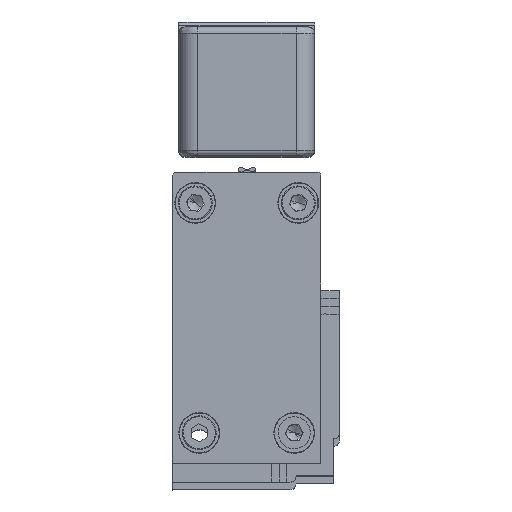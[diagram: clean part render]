
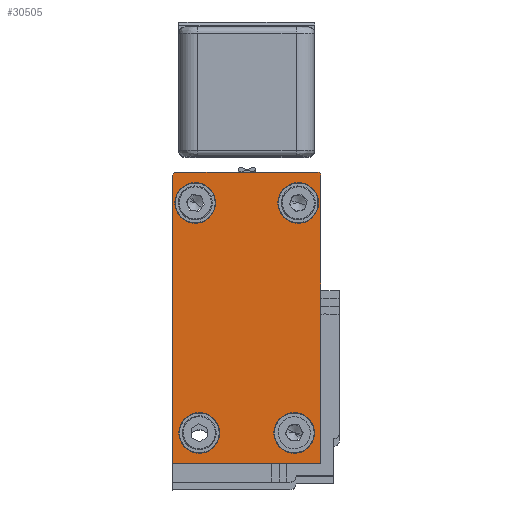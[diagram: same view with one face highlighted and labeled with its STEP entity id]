
A CAD part, top view. The second image highlights one B-rep face of the part: STEP entity #30505.
In plain terms, the highlighted planar face has unit normal (0, 0, 1).
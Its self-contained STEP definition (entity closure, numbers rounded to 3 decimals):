
#558 = AXIS2_PLACEMENT_3D ( 'NONE', #4764, #22185, #7271 ) ;
#750 = CARTESIAN_POINT ( 'NONE',  ( -10.412, -15.887, 3185. ) ) ;
#757 = VERTEX_POINT ( 'NONE', #20010 ) ;
#947 = EDGE_CURVE ( 'NONE', #757, #5294, #22103, .T. ) ;
#955 = DIRECTION ( 'NONE',  ( -1., 0., 0. ) ) ;
#1496 = CARTESIAN_POINT ( 'NONE',  ( -17.514, 26.371, 3185. ) ) ;
#1569 = FACE_BOUND ( 'NONE', #18201, .T. ) ;
#1821 = EDGE_CURVE ( 'NONE', #17004, #27477, #30537, .T. ) ;
#2921 = CARTESIAN_POINT ( 'NONE',  ( 5.637, 21.401, 3185. ) ) ;
#3672 = ORIENTED_EDGE ( 'NONE', *, *, #18366, .T. ) ;
#3858 = VERTEX_POINT ( 'NONE', #8494 ) ;
#4029 = VERTEX_POINT ( 'NONE', #1496 ) ;
#4140 = EDGE_CURVE ( 'NONE', #3858, #4029, #25470, .T. ) ;
#4327 = CARTESIAN_POINT ( 'NONE',  ( -14.365, 21.401, 3185. ) ) ;
#4404 = ORIENTED_EDGE ( 'NONE', *, *, #6103, .T. ) ;
#4764 = CARTESIAN_POINT ( 'NONE',  ( 2.335, 21.401, 3185. ) ) ;
#4792 = ORIENTED_EDGE ( 'NONE', *, *, #16801, .T. ) ;
#5294 = VERTEX_POINT ( 'NONE', #27359 ) ;
#6103 = EDGE_CURVE ( 'NONE', #3858, #757, #20710, .T. ) ;
#6301 = EDGE_CURVE ( 'NONE', #13837, #8673, #28497, .T. ) ;
#6840 = DIRECTION ( 'NONE',  ( -1., 0., 0. ) ) ;
#6914 = CIRCLE ( 'NONE', #16742, 3.302 ) ;
#7064 = CIRCLE ( 'NONE', #558, 3.302 ) ;
#7121 = DIRECTION ( 'NONE',  ( 0., 0., -1. ) ) ;
#7184 = VERTEX_POINT ( 'NONE', #2921 ) ;
#7271 = DIRECTION ( 'NONE',  ( -1., 0., 0. ) ) ;
#7564 = CARTESIAN_POINT ( 'NONE',  ( -14.365, 21.401, 3185. ) ) ;
#7820 = CARTESIAN_POINT ( 'NONE',  ( -18.014, -20.888, 3185. ) ) ;
#7824 = EDGE_CURVE ( 'NONE', #7184, #19777, #7064, .T. ) ;
#7921 = ORIENTED_EDGE ( 'NONE', *, *, #947, .T. ) ;
#8130 = CARTESIAN_POINT ( 'NONE',  ( 1.676, -15.887, 3185. ) ) ;
#8217 = FACE_BOUND ( 'NONE', #18370, .T. ) ;
#8353 = CARTESIAN_POINT ( 'NONE',  ( -13.714, -15.887, 3185. ) ) ;
#8494 = CARTESIAN_POINT ( 'NONE',  ( -18.014, 25.871, 3185. ) ) ;
#8673 = VERTEX_POINT ( 'NONE', #31072 ) ;
#8829 = ORIENTED_EDGE ( 'NONE', *, *, #1821, .T. ) ;
#9311 = EDGE_CURVE ( 'NONE', #32126, #17004, #32294, .T. ) ;
#9410 = EDGE_CURVE ( 'NONE', #11609, #15200, #6914, .T. ) ;
#9777 = ORIENTED_EDGE ( 'NONE', *, *, #23729, .T. ) ;
#10068 = DIRECTION ( 'NONE',  ( -1., 0., 0. ) ) ;
#10202 = PLANE ( 'NONE',  #25380 ) ;
#10249 = ORIENTED_EDGE ( 'NONE', *, *, #20974, .T. ) ;
#10304 = DIRECTION ( 'NONE',  ( -1., 0., 0. ) ) ;
#10547 = CARTESIAN_POINT ( 'NONE',  ( 4.978, -15.887, 3185. ) ) ;
#10628 = DIRECTION ( 'NONE',  ( 0., 0., 1. ) ) ;
#10638 = DIRECTION ( 'NONE',  ( -1., 0., 0. ) ) ;
#10733 = EDGE_LOOP ( 'NONE', ( #25263, #10249 ) ) ;
#10754 = ORIENTED_EDGE ( 'NONE', *, *, #4140, .F. ) ;
#10762 = LINE ( 'NONE', #28736, #23200 ) ;
#10855 = DIRECTION ( 'NONE',  ( -1., 0., 0. ) ) ;
#10953 = ORIENTED_EDGE ( 'NONE', *, *, #9311, .T. ) ;
#11387 = CARTESIAN_POINT ( 'NONE',  ( -11.063, 21.401, 3185. ) ) ;
#11609 = VERTEX_POINT ( 'NONE', #10547 ) ;
#12359 = EDGE_CURVE ( 'NONE', #31682, #30789, #14753, .T. ) ;
#12441 = CARTESIAN_POINT ( 'NONE',  ( 1.676, -15.887, 3185. ) ) ;
#12663 = CARTESIAN_POINT ( 'NONE',  ( 5.984, 25.871, 3185. ) ) ;
#12810 = AXIS2_PLACEMENT_3D ( 'NONE', #27932, #13015, #30478 ) ;
#12836 = ORIENTED_EDGE ( 'NONE', *, *, #7824, .T. ) ;
#13015 = DIRECTION ( 'NONE',  ( 0., 0., -1. ) ) ;
#13661 = DIRECTION ( 'NONE',  ( 0., 0., -1. ) ) ;
#13837 = VERTEX_POINT ( 'NONE', #750 ) ;
#13840 = CARTESIAN_POINT ( 'NONE',  ( -17.667, 21.401, 3185. ) ) ;
#14753 = CIRCLE ( 'NONE', #17490, 3.302 ) ;
#14769 = ORIENTED_EDGE ( 'NONE', *, *, #23858, .T. ) ;
#14936 = DIRECTION ( 'NONE',  ( -1., 0., 0. ) ) ;
#15200 = VERTEX_POINT ( 'NONE', #18003 ) ;
#15368 = CIRCLE ( 'NONE', #26646, 3.302 ) ;
#15485 = AXIS2_PLACEMENT_3D ( 'NONE', #8353, #25742, #10855 ) ;
#15527 = VECTOR ( 'NONE', #17328, 1000. ) ;
#15530 = CARTESIAN_POINT ( 'NONE',  ( 5.485, 26.371, 3185. ) ) ;
#15616 = FACE_BOUND ( 'NONE', #10733, .T. ) ;
#16742 = AXIS2_PLACEMENT_3D ( 'NONE', #12441, #29869, #14936 ) ;
#16801 = EDGE_CURVE ( 'NONE', #5294, #32126, #10762, .T. ) ;
#16882 = CARTESIAN_POINT ( 'NONE',  ( 5.984, 7.11, 3185. ) ) ;
#16938 = ORIENTED_EDGE ( 'NONE', *, *, #6301, .T. ) ;
#17004 = VERTEX_POINT ( 'NONE', #12663 ) ;
#17328 = DIRECTION ( 'NONE',  ( 1., 0., 0. ) ) ;
#17476 = DIRECTION ( 'NONE',  ( 0., -1., 0. ) ) ;
#17490 = AXIS2_PLACEMENT_3D ( 'NONE', #7564, #24962, #10068 ) ;
#17565 = AXIS2_PLACEMENT_3D ( 'NONE', #8130, #25513, #10638 ) ;
#17890 = LINE ( 'NONE', #23355, #30385 ) ;
#18003 = CARTESIAN_POINT ( 'NONE',  ( -1.626, -15.887, 3185. ) ) ;
#18201 = EDGE_LOOP ( 'NONE', ( #31427, #16938 ) ) ;
#18366 = EDGE_CURVE ( 'NONE', #27477, #4029, #17890, .T. ) ;
#18370 = EDGE_LOOP ( 'NONE', ( #14769, #12836 ) ) ;
#19387 = DIRECTION ( 'NONE',  ( 0., 1., 0. ) ) ;
#19579 = AXIS2_PLACEMENT_3D ( 'NONE', #22028, #7121, #24528 ) ;
#19777 = VERTEX_POINT ( 'NONE', #21837 ) ;
#19911 = CARTESIAN_POINT ( 'NONE',  ( 5.984, 7.11, 3185. ) ) ;
#20010 = CARTESIAN_POINT ( 'NONE',  ( -18.014, -20.888, 3185. ) ) ;
#20710 = LINE ( 'NONE', #29898, #26514 ) ;
#20974 = EDGE_CURVE ( 'NONE', #30789, #31682, #15368, .T. ) ;
#21763 = DIRECTION ( 'NONE',  ( 0., 0., -1. ) ) ;
#21837 = CARTESIAN_POINT ( 'NONE',  ( -0.967, 21.401, 3185. ) ) ;
#22028 = CARTESIAN_POINT ( 'NONE',  ( -17.514, 25.871, 3185. ) ) ;
#22103 = LINE ( 'NONE', #24692, #15527 ) ;
#22185 = DIRECTION ( 'NONE',  ( 0., 0., -1. ) ) ;
#22883 = CIRCLE ( 'NONE', #15485, 3.302 ) ;
#23200 = VECTOR ( 'NONE', #31255, 1000. ) ;
#23355 = CARTESIAN_POINT ( 'NONE',  ( 5.485, 26.371, 3185. ) ) ;
#23550 = EDGE_LOOP ( 'NONE', ( #4792, #10953, #8829, #3672, #10754, #4404, #7921 ) ) ;
#23729 = EDGE_CURVE ( 'NONE', #15200, #11609, #29185, .T. ) ;
#23762 = AXIS2_PLACEMENT_3D ( 'NONE', #25502, #10628, #28061 ) ;
#23858 = EDGE_CURVE ( 'NONE', #19777, #7184, #31150, .T. ) ;
#24528 = DIRECTION ( 'NONE',  ( 0., 1., 0. ) ) ;
#24692 = CARTESIAN_POINT ( 'NONE',  ( -18.014, -20.888, 3185. ) ) ;
#24962 = DIRECTION ( 'NONE',  ( 0., 0., -1. ) ) ;
#25202 = DIRECTION ( 'NONE',  ( 0., 0., 1. ) ) ;
#25263 = ORIENTED_EDGE ( 'NONE', *, *, #12359, .T. ) ;
#25380 = AXIS2_PLACEMENT_3D ( 'NONE', #7820, #25202, #10304 ) ;
#25470 = CIRCLE ( 'NONE', #19579, 0.5 ) ;
#25502 = CARTESIAN_POINT ( 'NONE',  ( 5.485, 25.871, 3185. ) ) ;
#25513 = DIRECTION ( 'NONE',  ( 0., 0., -1. ) ) ;
#25742 = DIRECTION ( 'NONE',  ( 0., 0., -1. ) ) ;
#26151 = EDGE_CURVE ( 'NONE', #8673, #13837, #22883, .T. ) ;
#26293 = ORIENTED_EDGE ( 'NONE', *, *, #9410, .T. ) ;
#26424 = VECTOR ( 'NONE', #19387, 1000. ) ;
#26514 = VECTOR ( 'NONE', #17476, 1000. ) ;
#26646 = AXIS2_PLACEMENT_3D ( 'NONE', #4327, #21763, #6840 ) ;
#27281 = FACE_OUTER_BOUND ( 'NONE', #23550, .T. ) ;
#27359 = CARTESIAN_POINT ( 'NONE',  ( 5.984, -20.888, 3185. ) ) ;
#27477 = VERTEX_POINT ( 'NONE', #15530 ) ;
#27583 = AXIS2_PLACEMENT_3D ( 'NONE', #28593, #13661, #31120 ) ;
#27932 = CARTESIAN_POINT ( 'NONE',  ( -13.714, -15.887, 3185. ) ) ;
#28061 = DIRECTION ( 'NONE',  ( 0., 1., 0. ) ) ;
#28106 = FACE_BOUND ( 'NONE', #28587, .T. ) ;
#28497 = CIRCLE ( 'NONE', #12810, 3.302 ) ;
#28587 = EDGE_LOOP ( 'NONE', ( #9777, #26293 ) ) ;
#28593 = CARTESIAN_POINT ( 'NONE',  ( 2.335, 21.401, 3185. ) ) ;
#28736 = CARTESIAN_POINT ( 'NONE',  ( 5.984, -20.888, 3185. ) ) ;
#29185 = CIRCLE ( 'NONE', #17565, 3.302 ) ;
#29869 = DIRECTION ( 'NONE',  ( 0., 0., -1. ) ) ;
#29898 = CARTESIAN_POINT ( 'NONE',  ( -18.014, 25.871, 3185. ) ) ;
#30385 = VECTOR ( 'NONE', #955, 1000. ) ;
#30478 = DIRECTION ( 'NONE',  ( -1., 0., 0. ) ) ;
#30505 = ADVANCED_FACE ( 'NONE', ( #15616, #8217, #28106, #1569, #27281 ), #10202, .T. ) ;
#30537 = CIRCLE ( 'NONE', #23762, 0.5 ) ;
#30789 = VERTEX_POINT ( 'NONE', #11387 ) ;
#31072 = CARTESIAN_POINT ( 'NONE',  ( -17.017, -15.887, 3185. ) ) ;
#31120 = DIRECTION ( 'NONE',  ( -1., 0., 0. ) ) ;
#31150 = CIRCLE ( 'NONE', #27583, 3.302 ) ;
#31255 = DIRECTION ( 'NONE',  ( 0., 1., 0. ) ) ;
#31427 = ORIENTED_EDGE ( 'NONE', *, *, #26151, .T. ) ;
#31682 = VERTEX_POINT ( 'NONE', #13840 ) ;
#32126 = VERTEX_POINT ( 'NONE', #19911 ) ;
#32294 = LINE ( 'NONE', #16882, #26424 ) ;
